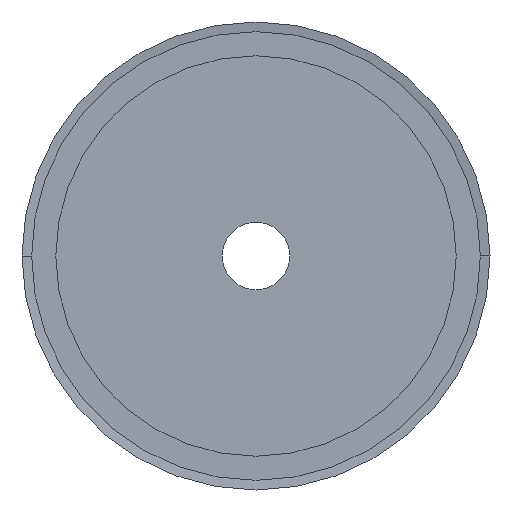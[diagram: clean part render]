
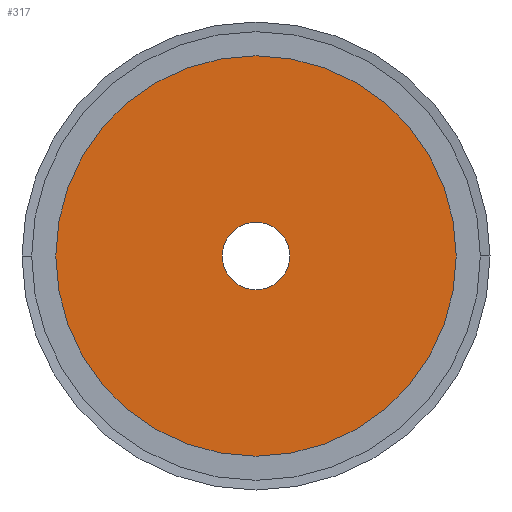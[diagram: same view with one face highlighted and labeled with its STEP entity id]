
A CAD part, left-side view. The second image highlights one B-rep face of the part: STEP entity #317.
In plain terms, the highlighted planar face has unit normal (-1, 0, 0).
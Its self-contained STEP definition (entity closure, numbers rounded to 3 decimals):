
#317 = ADVANCED_FACE( '', ( #809, #810 ), #811, .T. );
#809 = FACE_BOUND( '', #1302, .T. );
#810 = FACE_OUTER_BOUND( '', #1303, .T. );
#811 = PLANE( '', #1304 );
#1302 = EDGE_LOOP( '', ( #3427, #3428 ) );
#1303 = EDGE_LOOP( '', ( #3429, #3430 ) );
#1304 = AXIS2_PLACEMENT_3D( '', #3431, #3432, #3433 );
#3427 = ORIENTED_EDGE( '', *, *, #3473, .T. );
#3428 = ORIENTED_EDGE( '', *, *, #3469, .T. );
#3429 = ORIENTED_EDGE( '', *, *, #3437, .T. );
#3430 = ORIENTED_EDGE( '', *, *, #4133, .T. );
#3431 = CARTESIAN_POINT( '', ( 0., 20.75, 0. ) );
#3432 = DIRECTION( '', ( -1., 0., 0. ) );
#3433 = DIRECTION( '', ( 0., 1., 0. ) );
#3437 = EDGE_CURVE( '', #4135, #4139, #4141, .T. );
#3469 = EDGE_CURVE( '', #4199, #4196, #4200, .T. );
#3473 = EDGE_CURVE( '', #4196, #4199, #4205, .T. );
#4133 = EDGE_CURVE( '', #4139, #4135, #5297, .T. );
#4135 = VERTEX_POINT( '', #5299 );
#4139 = VERTEX_POINT( '', #5304 );
#4141 = CIRCLE( '', #5307, 41.5 );
#4196 = VERTEX_POINT( '', #5378 );
#4199 = VERTEX_POINT( '', #5382 );
#4200 = CIRCLE( '', #5383, 7. );
#4205 = CIRCLE( '', #5389, 7. );
#5297 = CIRCLE( '', #6841, 41.5 );
#5299 = CARTESIAN_POINT( '', ( 0., 41.5, 0. ) );
#5304 = CARTESIAN_POINT( '', ( 0., -41.5, 0. ) );
#5307 = AXIS2_PLACEMENT_3D( '', #6847, #6848, #6849 );
#5378 = CARTESIAN_POINT( '', ( 0., 7., 0. ) );
#5382 = CARTESIAN_POINT( '', ( 0., -7., 0. ) );
#5383 = AXIS2_PLACEMENT_3D( '', #6909, #6910, #6911 );
#5389 = AXIS2_PLACEMENT_3D( '', #6919, #6920, #6921 );
#6841 = AXIS2_PLACEMENT_3D( '', #8179, #8180, #8181 );
#6847 = CARTESIAN_POINT( '', ( 0., 0., 0. ) );
#6848 = DIRECTION( '', ( -1., 0., 0. ) );
#6849 = DIRECTION( '', ( 0., 1., 0. ) );
#6909 = CARTESIAN_POINT( '', ( 0., 0., 0. ) );
#6910 = DIRECTION( '', ( 1., 0., 0. ) );
#6911 = DIRECTION( '', ( 0., 1., 0. ) );
#6919 = CARTESIAN_POINT( '', ( 0., 0., 0. ) );
#6920 = DIRECTION( '', ( 1., 0., 0. ) );
#6921 = DIRECTION( '', ( 0., 1., 0. ) );
#8179 = CARTESIAN_POINT( '', ( 0., 0., 0. ) );
#8180 = DIRECTION( '', ( -1., 0., 0. ) );
#8181 = DIRECTION( '', ( 0., 1., 0. ) );
